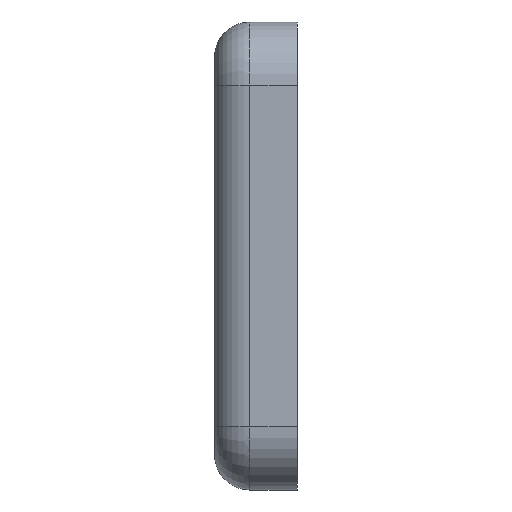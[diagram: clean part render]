
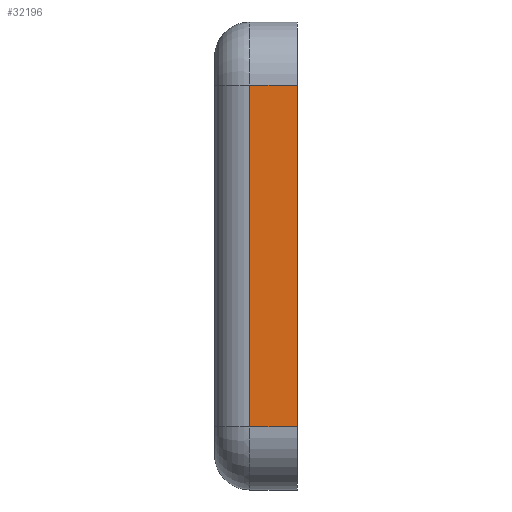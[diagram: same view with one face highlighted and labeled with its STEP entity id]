
A CAD part, left-side view. The second image highlights one B-rep face of the part: STEP entity #32196.
In plain terms, the highlighted planar face has unit normal (-1, 0, 0).
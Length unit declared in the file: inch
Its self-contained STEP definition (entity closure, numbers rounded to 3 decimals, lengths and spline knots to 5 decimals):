
#883 = VECTOR ( 'NONE', #9883, 39.37008 ) ;
#3920 = LINE ( 'NONE', #53126, #31853 ) ;
#4248 = CARTESIAN_POINT ( 'NONE',  ( -4.78314, 1.25, 2.57814 ) ) ;
#7633 = CARTESIAN_POINT ( 'NONE',  ( -4.78314, 0., 2.57814 ) ) ;
#9883 = DIRECTION ( 'NONE',  ( 0., 1., 0. ) ) ;
#13127 = EDGE_CURVE ( 'NONE', #67070, #46967, #49570, .T. ) ;
#13208 = CARTESIAN_POINT ( 'NONE',  ( -4.78314, 0.72, 2.57814 ) ) ;
#14262 = ORIENTED_EDGE ( 'NONE', *, *, #26630, .T. ) ;
#16134 = ORIENTED_EDGE ( 'NONE', *, *, #13127, .F. ) ;
#19175 = DIRECTION ( 'NONE',  ( 0., 0., -1. ) ) ;
#20578 = CARTESIAN_POINT ( 'NONE',  ( -4.78314, 1.25, 3.52814 ) ) ;
#21058 = CARTESIAN_POINT ( 'NONE',  ( -4.78314, 0.72, -2.57814 ) ) ;
#23640 = CARTESIAN_POINT ( 'NONE',  ( -4.78314, 0.72, -2.57814 ) ) ;
#26630 = EDGE_CURVE ( 'NONE', #32296, #46967, #3920, .T. ) ;
#29083 = LINE ( 'NONE', #23640, #53539 ) ;
#29229 = DIRECTION ( 'NONE',  ( 0., 0., -1. ) ) ;
#29801 = EDGE_CURVE ( 'NONE', #63528, #32296, #29083, .T. ) ;
#29875 = FACE_OUTER_BOUND ( 'NONE', #70090, .T. ) ;
#31853 = VECTOR ( 'NONE', #69914, 39.37008 ) ;
#32196 = ADVANCED_FACE ( 'NONE', ( #29875 ), #65172, .T. ) ;
#32296 = VERTEX_POINT ( 'NONE', #21058 ) ;
#32368 = ORIENTED_EDGE ( 'NONE', *, *, #35737, .T. ) ;
#35737 = EDGE_CURVE ( 'NONE', #67070, #63528, #55006, .T. ) ;
#37378 = DIRECTION ( 'NONE',  ( 0., 0., 1. ) ) ;
#40513 = CARTESIAN_POINT ( 'NONE',  ( -4.78314, 0., -2.57814 ) ) ;
#44070 = ORIENTED_EDGE ( 'NONE', *, *, #29801, .T. ) ;
#46967 = VERTEX_POINT ( 'NONE', #40513 ) ;
#49570 = LINE ( 'NONE', #52564, #66131 ) ;
#52564 = CARTESIAN_POINT ( 'NONE',  ( -4.78314, 0., 3.52814 ) ) ;
#53126 = CARTESIAN_POINT ( 'NONE',  ( -4.78314, 1.25, -2.57814 ) ) ;
#53539 = VECTOR ( 'NONE', #29229, 39.37008 ) ;
#55006 = LINE ( 'NONE', #4248, #883 ) ;
#63434 = AXIS2_PLACEMENT_3D ( 'NONE', #20578, #70773, #37378 ) ;
#63528 = VERTEX_POINT ( 'NONE', #13208 ) ;
#65172 = PLANE ( 'NONE',  #63434 ) ;
#66131 = VECTOR ( 'NONE', #19175, 39.37008 ) ;
#67070 = VERTEX_POINT ( 'NONE', #7633 ) ;
#69914 = DIRECTION ( 'NONE',  ( 0., -1., 0. ) ) ;
#70090 = EDGE_LOOP ( 'NONE', ( #32368, #44070, #14262, #16134 ) ) ;
#70773 = DIRECTION ( 'NONE',  ( -1., 0., 0. ) ) ;
